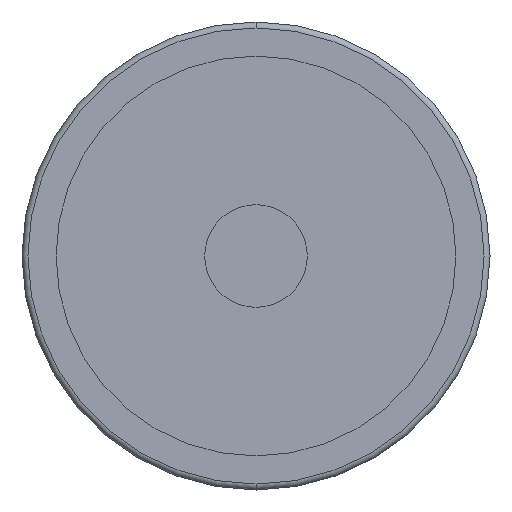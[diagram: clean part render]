
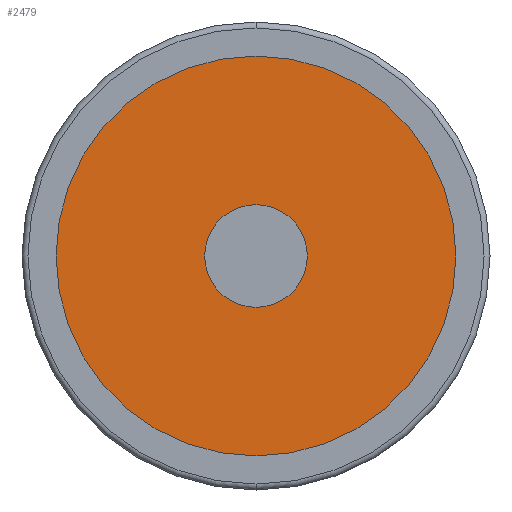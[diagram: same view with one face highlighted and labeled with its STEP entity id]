
A CAD part, front view. The second image highlights one B-rep face of the part: STEP entity #2479.
In plain terms, the highlighted planar face has unit normal (0, -1, 0).
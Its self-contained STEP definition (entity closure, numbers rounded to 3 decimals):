
#94 = VERTEX_POINT ( 'NONE', #728 ) ;
#113 = ORIENTED_EDGE ( 'NONE', *, *, #1444, .T. ) ;
#392 = CARTESIAN_POINT ( 'NONE',  ( 8., 4.5, 0. ) ) ;
#419 = FACE_OUTER_BOUND ( 'NONE', #2292, .T. ) ;
#421 = ORIENTED_EDGE ( 'NONE', *, *, #2285, .F. ) ;
#482 = PLANE ( 'NONE',  #1593 ) ;
#518 = CIRCLE ( 'NONE', #597, 8. ) ;
#597 = AXIS2_PLACEMENT_3D ( 'NONE', #1397, #2332, #658 ) ;
#610 = CARTESIAN_POINT ( 'NONE',  ( 0., 4.5, 0. ) ) ;
#658 = DIRECTION ( 'NONE',  ( 1., 0., 0. ) ) ;
#701 = CARTESIAN_POINT ( 'NONE',  ( -8., 4.5, 0. ) ) ;
#728 = CARTESIAN_POINT ( 'NONE',  ( -34.25, 4.5, 0. ) ) ;
#885 = DIRECTION ( 'NONE',  ( 0., -1., 0. ) ) ;
#975 = DIRECTION ( 'NONE',  ( 0., -1., 0. ) ) ;
#1003 = CARTESIAN_POINT ( 'NONE',  ( -34.25, 4.5, 0. ) ) ;
#1054 = CARTESIAN_POINT ( 'NONE',  ( 0., 4.5, 0. ) ) ;
#1070 = DIRECTION ( 'NONE',  ( 0., -1., 0. ) ) ;
#1085 = DIRECTION ( 'NONE',  ( 1., 0., 0. ) ) ;
#1160 = DIRECTION ( 'NONE',  ( 1., 0., 0. ) ) ;
#1224 = CIRCLE ( 'NONE', #1268, 34.25 ) ;
#1268 = AXIS2_PLACEMENT_3D ( 'NONE', #1487, #885, #1085 ) ;
#1328 = EDGE_CURVE ( 'NONE', #1777, #94, #1224, .T. ) ;
#1349 = CIRCLE ( 'NONE', #2395, 34.25 ) ;
#1397 = CARTESIAN_POINT ( 'NONE',  ( 0., 4.5, 0. ) ) ;
#1444 = EDGE_CURVE ( 'NONE', #94, #1777, #1349, .T. ) ;
#1446 = VERTEX_POINT ( 'NONE', #701 ) ;
#1487 = CARTESIAN_POINT ( 'NONE',  ( 0., 4.5, 0. ) ) ;
#1552 = AXIS2_PLACEMENT_3D ( 'NONE', #610, #1939, #1557 ) ;
#1557 = DIRECTION ( 'NONE',  ( 1., 0., 0. ) ) ;
#1593 = AXIS2_PLACEMENT_3D ( 'NONE', #1003, #975, #1160 ) ;
#1639 = FACE_BOUND ( 'NONE', #1960, .T. ) ;
#1664 = CARTESIAN_POINT ( 'NONE',  ( 34.25, 4.5, 0. ) ) ;
#1674 = EDGE_CURVE ( 'NONE', #1881, #1446, #518, .T. ) ;
#1777 = VERTEX_POINT ( 'NONE', #1664 ) ;
#1848 = DIRECTION ( 'NONE',  ( 1., 0., 0. ) ) ;
#1869 = ORIENTED_EDGE ( 'NONE', *, *, #1674, .F. ) ;
#1881 = VERTEX_POINT ( 'NONE', #392 ) ;
#1939 = DIRECTION ( 'NONE',  ( 0., -1., 0. ) ) ;
#1960 = EDGE_LOOP ( 'NONE', ( #1869, #421 ) ) ;
#2009 = ORIENTED_EDGE ( 'NONE', *, *, #1328, .T. ) ;
#2157 = CIRCLE ( 'NONE', #1552, 8. ) ;
#2285 = EDGE_CURVE ( 'NONE', #1446, #1881, #2157, .T. ) ;
#2292 = EDGE_LOOP ( 'NONE', ( #113, #2009 ) ) ;
#2332 = DIRECTION ( 'NONE',  ( 0., -1., 0. ) ) ;
#2395 = AXIS2_PLACEMENT_3D ( 'NONE', #1054, #1070, #1848 ) ;
#2479 = ADVANCED_FACE ( 'NONE', ( #419, #1639 ), #482, .T. ) ;
